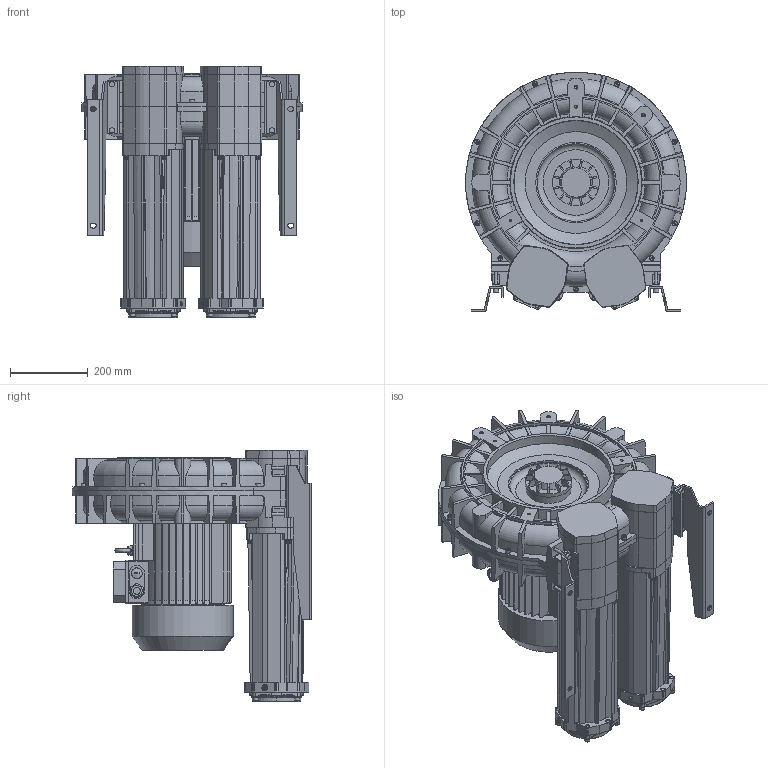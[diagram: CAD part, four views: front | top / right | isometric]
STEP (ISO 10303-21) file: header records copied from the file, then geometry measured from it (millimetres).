
FILE_DESCRIPTION (( 'STEP AP203' ), '1' );
FILE_NAME ('STP-L_e_11_MD_MOR_IE3WR_132_9.2kW-3_24-00.step', '2025-01-14T09:21:39', ( '' ), ( '' ), 'SwSTEP 2.0', 'SolidWorks 2024', '' );
FILE_SCHEMA (( 'CONFIG_CONTROL_DESIGN' ));
Length unit declared in the file: millimetre
Products named in the file (1): STP-L_e_11_MD_MOR_IE3WR_132_9.2kW-3_24-00
Bounding box: 568 x 616 x 647 mm (x, y, z)
Volume: 63786990.9 mm3; surface area: 3576332.5 mm2
Topology: 82 solids, 82 shells, 5620 faces, 14373 edges, 8934 vertices
Faces by surface type: plane 1914, cylinder 1846, bspline 826, torus 500, cone 477, sphere 57
Full cylindrical faces by diameter (mm): 6.8 x24, 7.5 x4, 8 x33, 8.4 x29, 8.5 x10, 8.566 x2, 8.8 x4, 9.98 x2, 10 x3, 11 x8, 12 x2, 12.02 x2, 13 x46, 14 x14, 16 x4, 16.5 x2, 18 x1, 19 x1, 20 x2, 21.4 x1, 24 x4, 25 x3, 28 x1, 110.4 x2, 115 x2, 120 x1, 128 x2, 207 x3, 213 x1, 259 x1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
Entity records: 268995 total; most frequent: CARTESIAN_POINT 143850, ORIENTED_EDGE 27352, DIRECTION 23998, EDGE_CURVE 13676, AXIS2_PLACEMENT_3D 9226, VERTEX_POINT 8731, EDGE_LOOP 6275, FACE_OUTER_BOUND 5910
